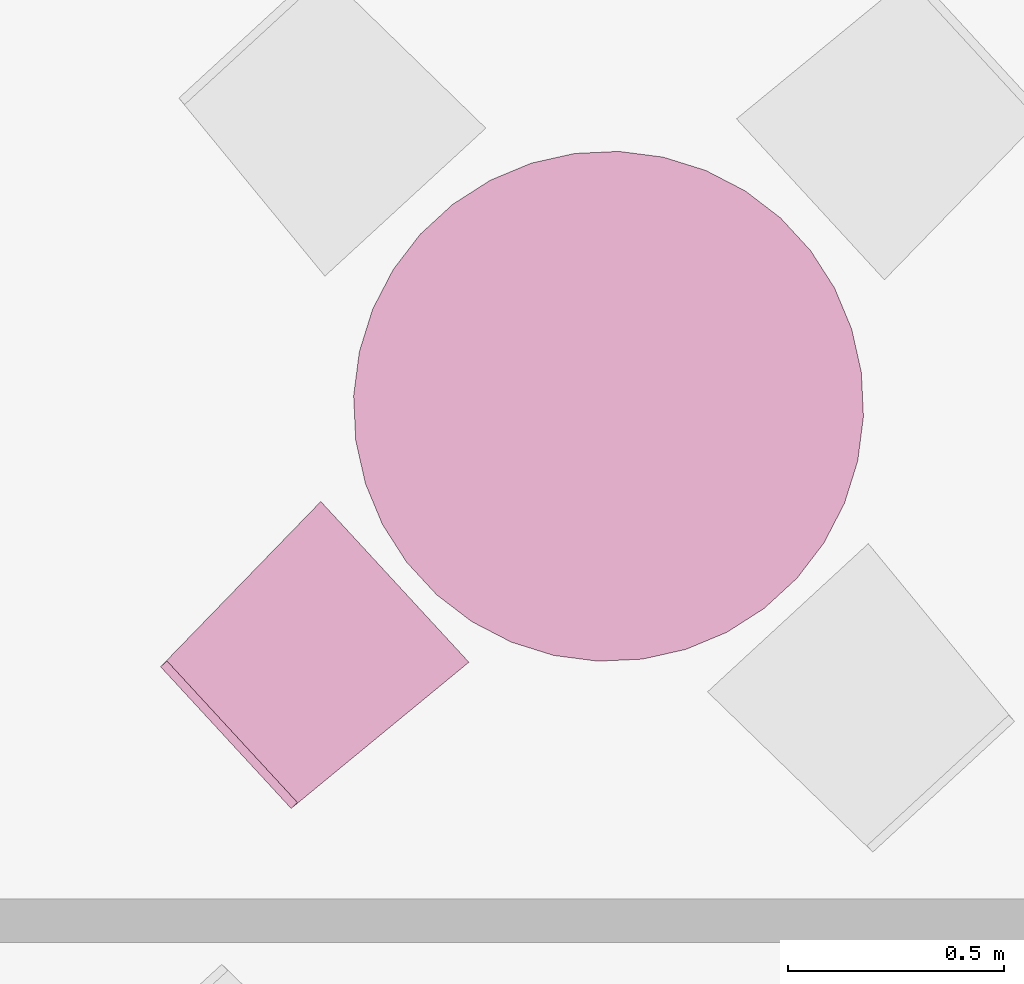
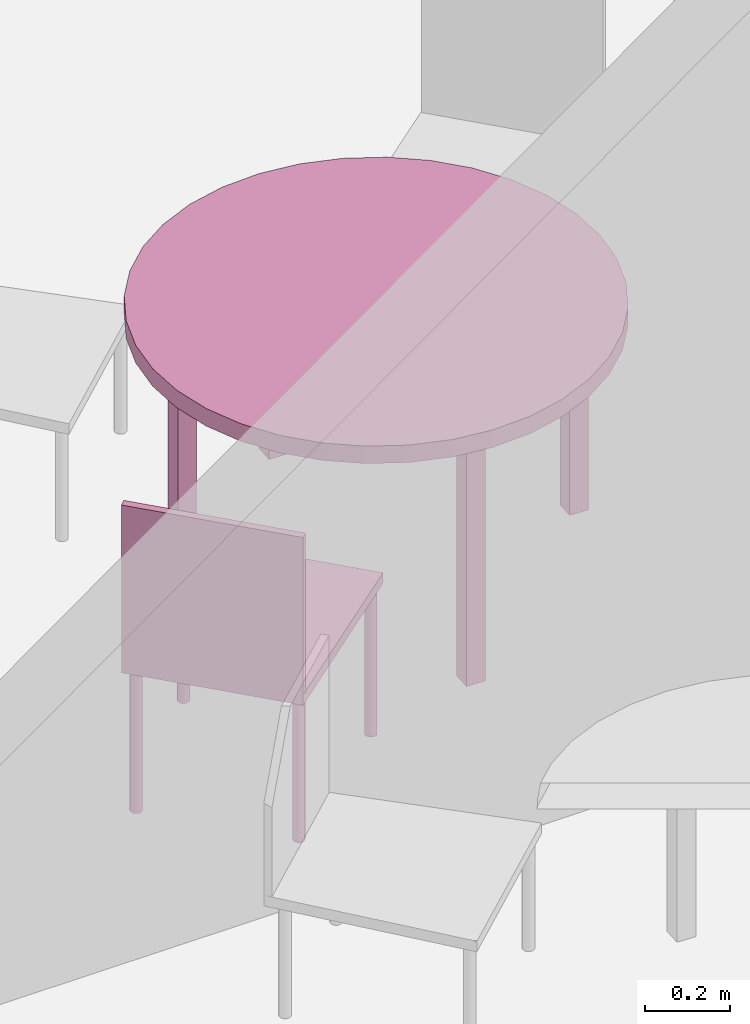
"""IFC4 building model written with IfcOpenShell, lengths in metres."""

import ifcopenshell
import ifcopenshell.guid

model = None  # the IFC model being written
_history = None  # IfcOwnerHistory: only IFC2X3 demands one
_inside = {}  # id of a spatial element -> (the spatial element, [elements in it])
_under = {}  # id of a project, library or spatial element -> (it, [spatial elements below it])
_declared = {}  # id of a project -> (the project, [libraries it declares])
_typed = {}  # id of a type object -> (the type object, [elements of that type])
_made_of = {}  # id of a material, layer set ... -> (it, [elements and type objects made of it])


def new_model(schema):
    """Start an empty IFC model of exactly this schema.

    Asked for "IFC4X3", IfcOpenShell would pick the latest addendum, in which some entities
    have other attributes; the version numbers below select the first issue.
    IFC2X3 requires an IfcOwnerHistory on every rooted entity: one is made here for all.
    """
    global model, _history
    if schema == "IFC4X3":
        model = ifcopenshell.file(schema_version=(4, 3, 0, 0))
    else:
        model = ifcopenshell.file(schema=schema)
    _inside.clear()
    _under.clear()
    _declared.clear()
    _typed.clear()
    _made_of.clear()
    _history = None
    if model.schema == "IFC2X3":
        org = make("IfcOrganization", Name="unknown")
        user = make(
            "IfcPersonAndOrganization",
            ThePerson=make("IfcPerson", FamilyName="unknown"),
            TheOrganization=org,
        )
        app = make(
            "IfcApplication",
            ApplicationDeveloper=org,
            Version="unknown",
            ApplicationFullName="unknown",
            ApplicationIdentifier="unknown",
        )
        _history = make(
            "IfcOwnerHistory",
            OwningUser=user,
            OwningApplication=app,
            ChangeAction="ADDED",
            CreationDate=0,
        )
    return model


def make(cls, **values):
    """One entity of the class cls with the attributes given. An attribute that is None is left unset."""
    return model.create_entity(
        cls, **{name: value for name, value in values.items() if value is not None}
    )


def entity(cls, *values):
    """Any entity or typed value of the class cls, its attributes in the order of the schema. None: left unset."""
    e = model.create_entity(cls)
    for i, value in enumerate(values):
        if value is not None:
            e[i] = value
    return e


def rooted(cls, **values):
    """An entity with a GlobalId (a new one), such as an element, a storey or a relation."""
    return make(cls, GlobalId=ifcopenshell.guid.new(), OwnerHistory=_history, **values)


def si_unit(unit_type, name, prefix=None):
    """IfcSIUnit, for example si_unit("LENGTHUNIT", "METRE", prefix="MILLI")."""
    return make("IfcSIUnit", UnitType=unit_type, Prefix=prefix, Name=name)


def converted_unit(unit_type, name, factor, base, dimensions=None, offset=None):
    """IfcConversionBasedUnit, such as the inch: factor (a typed value) times the base unit."""
    return make(
        "IfcConversionBasedUnit"
        if offset is None
        else "IfcConversionBasedUnitWithOffset",
        ConversionOffset=offset,
        Dimensions=None
        if dimensions is None
        else entity("IfcDimensionalExponents", *dimensions),
        UnitType=unit_type,
        Name=name,
        ConversionFactor=make(
            "IfcMeasureWithUnit", ValueComponent=factor, UnitComponent=base
        ),
    )


def derived_unit(unit_type, elements):
    """IfcDerivedUnit: a product of units, each with its exponent."""
    return make(
        "IfcDerivedUnit",
        Elements=[
            make("IfcDerivedUnitElement", Unit=unit, Exponent=power)
            for unit, power in elements
        ],
        UnitType=unit_type,
    )


def assignment(units):
    """IfcUnitAssignment: the units of a project."""
    return None if units is None else make("IfcUnitAssignment", Units=units)


def point(xyz):
    """IfcCartesianPoint."""
    return None if xyz is None else make("IfcCartesianPoint", Coordinates=xyz)


def direction(xyz):
    """IfcDirection."""
    return None if xyz is None else make("IfcDirection", DirectionRatios=xyz)


def frame(location, z_axis=None, x_axis=None):
    """IfcAxis2Placement3D, a coordinate frame: its origin and axes. An axis left out is left unset."""
    return make(
        "IfcAxis2Placement3D",
        Location=point(location),
        Axis=direction(z_axis),
        RefDirection=direction(x_axis),
    )


def origin():
    """The frame at (0, 0, 0) with its axes left unset."""
    return frame((0.0, 0.0, 0.0))


def place(relative_to, where):
    """IfcLocalPlacement: puts the frame where relative to a parent placement (None: the world)."""
    return make(
        "IfcLocalPlacement", PlacementRelTo=relative_to, RelativePlacement=where
    )


def context(
    kind, dimensions, precision=None, world=None, true_north=None, identifier=None
):
    """IfcGeometricRepresentationContext, for example the 3D "Model" context."""
    return make(
        "IfcGeometricRepresentationContext",
        ContextIdentifier=identifier,
        ContextType=kind,
        CoordinateSpaceDimension=dimensions,
        Precision=precision,
        WorldCoordinateSystem=world,
        TrueNorth=true_north,
    )


def subcontext(parent, identifier, kind, view, scale=None):
    """IfcGeometricRepresentationSubContext, for example "Body" below "Model"."""
    return make(
        "IfcGeometricRepresentationSubContext",
        ContextIdentifier=identifier,
        ContextType=kind,
        ParentContext=parent,
        TargetScale=scale,
        TargetView=view,
    )


def project(units=None, contexts=None):
    """IfcProject with its units and contexts."""
    return rooted(
        "IfcProject",
        Name="project",
        RepresentationContexts=contexts,
        UnitsInContext=assignment(units),
    )


def spatial(cls, under=None, at=None, **own):
    """A site, building, storey or space (cls), placed at a placement, below another one or the project."""
    s = rooted(cls, ObjectPlacement=at, **own)
    if under is not None:
        _under.setdefault(under.id(), (under, []))[1].append(s)
    return s


def faces_of(points, faces, orient=None, outer=None):
    """IfcFace entities. A face is a list of loops; a loop is a list of indices into points, from 0.

    orient and outer hold one flag for each loop. By default every Orientation is true, the
    first loop of a face is its IfcFaceOuterBound and the others are IfcFaceBound.
    """
    made = []
    for i, loops in enumerate(faces):
        bounds = []
        for j, loop in enumerate(loops):
            is_outer = j == 0 if outer is None else outer[i][j]
            bounds.append(
                make(
                    "IfcFaceOuterBound" if is_outer else "IfcFaceBound",
                    Bound=make("IfcPolyLoop", Polygon=[points[k] for k in loop]),
                    Orientation=True if orient is None else orient[i][j],
                )
            )
        made.append(make("IfcFace", Bounds=bounds))
    return made


def faceted_brep(points, faces, orient=None, outer=None, voids=None):
    """IfcFacetedBrep: a solid bounded by flat faces; with voids (closed shells), ...WithVoids."""
    shared = [point(p) for p in points]
    hull = make("IfcClosedShell", CfsFaces=faces_of(shared, faces, orient, outer))
    if voids is None:
        return make("IfcFacetedBrep", Outer=hull)
    return make(
        "IfcFacetedBrepWithVoids",
        Outer=hull,
        Voids=[
            make(cls, CfsFaces=faces_of(shared, fs, o, b)) for cls, fs, o, b in voids
        ],
    )


def shape(context_of_items, identifier, shape_type, items):
    """IfcShapeRepresentation: the items that make up one representation, for example the "Body"."""
    return make(
        "IfcShapeRepresentation",
        ContextOfItems=context_of_items,
        RepresentationIdentifier=identifier,
        RepresentationType=shape_type,
        Items=items,
    )


def made_of(thing, what):
    """Note that an element or type object is made of a material, layer set ...; save() writes the relation."""
    if what is not None:
        _made_of.setdefault(what.id(), (what, []))[1].append(thing)
    return thing


def element(
    cls,
    number,
    at=None,
    inside=None,
    cuts=None,
    type_object=None,
    material=None,
    context=None,
    identifier="Body",
    shape_type=None,
    held_by="IfcProductDefinitionShape",
    body=None,
    shapes=None,
    **own,
):
    """One element of the class cls, such as IfcWall. Its Tag is "e" and its number.

    at: its placement. inside: the storey or other place that contains it. cuts: it is an
    opening in that element (IfcRelVoidsElement). A single representation is given by context,
    identifier, shape_type and body (its items); several are given by shapes. held_by: the class
    of the entity that holds the representations. save() writes the other relations.
    """
    e = rooted(cls, Tag="e%d" % number, ObjectPlacement=at, **own)
    if body is not None:
        shapes = [shape(context, identifier, shape_type, body)]
    if shapes is not None:
        e.Representation = make(held_by, Representations=shapes)
    if inside is not None:
        _inside.setdefault(inside.id(), (inside, []))[1].append(e)
    if cuts is not None:
        rooted(
            "IfcRelVoidsElement", RelatingBuildingElement=cuts, RelatedOpeningElement=e
        )
    if type_object is not None:
        _typed.setdefault(type_object.id(), (type_object, []))[1].append(e)
    return made_of(e, material)


def aggregate(whole, parts):
    """IfcRelAggregates: a whole, such as a stair, and the parts it consists of."""
    return rooted("IfcRelAggregates", RelatingObject=whole, RelatedObjects=parts)


def save(model, path):
    """Write the relations noted so far, then the file.

    IfcRelAggregates (storeys below a building ...), IfcRelContainedInSpatialStructure (elements
    in a storey), IfcRelDefinesByType, IfcRelAssociatesMaterial and IfcRelDeclares: one each for
    every whole, place, type object, material and project.
    """
    for whole, parts in _under.values():
        aggregate(whole, parts)
    for where, things in _inside.values():
        rooted(
            "IfcRelContainedInSpatialStructure",
            RelatedElements=things,
            RelatingStructure=where,
        )
    for kind, things in _typed.values():
        rooted("IfcRelDefinesByType", RelatedObjects=things, RelatingType=kind)
    for what, things in _made_of.values():
        rooted("IfcRelAssociatesMaterial", RelatedObjects=things, RelatingMaterial=what)
    for by, libraries in _declared.values():
        rooted("IfcRelDeclares", RelatingContext=by, RelatedDefinitions=libraries)
    model.write(path)


model = new_model("IFC4")

# Units and contexts
model_context = context("Model", 3, precision=1e-05, world=origin())
body_context = subcontext(model_context, "Body", "Model", "MODEL_VIEW")
ifc_project = project(units=[si_unit("LENGTHUNIT", "METRE"), si_unit("AREAUNIT", "SQUARE_METRE"), si_unit("VOLUMEUNIT", "CUBIC_METRE"), si_unit("MASSUNIT", "GRAM", prefix="KILO"), converted_unit("PLANEANGLEUNIT", "DEGREE", entity("IfcPlaneAngleMeasure", 0.0174532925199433), si_unit("PLANEANGLEUNIT", "RADIAN"), dimensions=[0, 0, 0, 0, 0, 0, 0]), derived_unit("THERMALTRANSMITTANCEUNIT", [(si_unit("POWERUNIT", "WATT"), 1), (si_unit("THERMODYNAMICTEMPERATUREUNIT", "KELVIN"), -1), (si_unit("LENGTHUNIT", "METRE"), -2)]), derived_unit("VOLUMETRICFLOWRATEUNIT", [(si_unit("LENGTHUNIT", "METRE"), 3), (converted_unit("TIMEUNIT", "hour", entity("IfcTimeMeasure", 3600.0), si_unit("TIMEUNIT", "SECOND"), dimensions=[0, 0, 1, 0, 0, 0, 0]), -1), (si_unit("LENGTHUNIT", "METRE"), -1)])], contexts=[model_context])

# Building, storeys
building_placement = place(None, origin())
building = spatial("IfcBuilding", under=ifc_project, at=building_placement, Name="HABITATGE PLURIFAMILIAR", CompositionType="ELEMENT")
storey_1_placement = place(building_placement, frame((0.0, 0.0, 12.27)))
storey_1 = spatial("IfcBuildingStorey", under=building, at=storey_1_placement, Name="PLANTA TERCERA", CompositionType="ELEMENT", Elevation=12.27)
storey_2_placement = place(storey_1_placement, frame((0.0, 0.0, 9.26)))
storey_2 = spatial("IfcBuildingStorey", under=storey_1, at=storey_2_placement, Name="NOU", CompositionType="PARTIAL")

# Furniture
furniture_1_placement = place(storey_2_placement, frame((423.998777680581, 23.3523776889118, -9.3599999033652)))
element("IfcFurniture", 1, at=furniture_1_placement, inside=storey_2, Name="Taula D120_P3", context=body_context, shape_type="Brep", body=[
    faceted_brep([(0.566234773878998, 0.0, 0.7), (0.669181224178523, 0.00472505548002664, 0.7), (0.769743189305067, 0.0272547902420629, 0.7), (0.864865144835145, 0.066904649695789, 0.7), (0.95165685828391, 0.122469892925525, 0.7), (1.02748120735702, 0.192262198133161, 0.7), (1.09003430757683, 0.274160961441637, 0.7), (1.13741551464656, 0.365677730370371, 0.7), (1.16818517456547, 0.46403181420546, 0.7), (1.18140836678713, 0.566234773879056, 0.7), (1.17668331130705, 0.669181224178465, 0.7), (1.15415357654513, 0.769743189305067, 0.7), (1.1145037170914, 0.864865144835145, 0.7), (1.05893847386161, 0.95165685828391, 0.7), (0.98914616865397, 1.02748120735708, 0.7), (0.907247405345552, 1.09003430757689, 0.7), (0.815730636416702, 1.13741551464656, 0.7), (0.717376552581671, 1.16818517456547, 0.7), (0.615173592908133, 1.18140836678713, 0.7), (0.512227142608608, 1.1766833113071, 0.7), (0.411665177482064, 1.15415357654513, 0.7), (0.316543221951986, 1.1145037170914, 0.7), (0.229751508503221, 1.05893847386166, 0.7), (0.15392715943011, 0.989146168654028, 0.7), (0.0913740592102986, 0.907247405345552, 0.7), (0.0439928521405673, 0.81573063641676, 0.7), (0.0132231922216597, 0.717376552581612, 0.7), (0.0, 0.615173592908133, 0.7), (0.00472505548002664, 0.512227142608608, 0.7), (0.0272547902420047, 0.411665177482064, 0.7), (0.0669046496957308, 0.316543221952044, 0.7), (0.122469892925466, 0.229751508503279, 0.7), (0.192262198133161, 0.15392715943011, 0.7), (0.274160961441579, 0.0913740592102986, 0.7), (0.365677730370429, 0.0439928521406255, 0.7), (0.46403181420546, 0.0132231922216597, 0.7), (0.566234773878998, 0.0, 0.75), (0.46403181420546, 0.0132231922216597, 0.75), (0.365677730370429, 0.0439928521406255, 0.75), (0.274160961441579, 0.0913740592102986, 0.75), (0.192262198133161, 0.15392715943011, 0.75), (0.122469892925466, 0.229751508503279, 0.75), (0.0669046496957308, 0.316543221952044, 0.75), (0.0272547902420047, 0.411665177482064, 0.75), (0.00472505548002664, 0.512227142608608, 0.75), (0.0, 0.615173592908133, 0.75), (0.0132231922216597, 0.717376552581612, 0.75), (0.0439928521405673, 0.81573063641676, 0.75), (0.0913740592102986, 0.907247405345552, 0.75), (0.15392715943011, 0.989146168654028, 0.75), (0.229751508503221, 1.05893847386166, 0.75), (0.316543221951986, 1.1145037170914, 0.75), (0.411665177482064, 1.15415357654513, 0.75), (0.512227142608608, 1.1766833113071, 0.75), (0.615173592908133, 1.18140836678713, 0.75), (0.717376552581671, 1.16818517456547, 0.75), (0.815730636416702, 1.13741551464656, 0.75), (0.907247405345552, 1.09003430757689, 0.75), (0.98914616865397, 1.02748120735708, 0.75), (1.05893847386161, 0.95165685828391, 0.75), (1.1145037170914, 0.864865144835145, 0.75), (1.15415357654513, 0.769743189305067, 0.75), (1.17668331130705, 0.669181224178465, 0.75), (1.18140836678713, 0.566234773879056, 0.75), (1.16818517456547, 0.46403181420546, 0.75), (1.13741551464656, 0.365677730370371, 0.75), (1.09003430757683, 0.274160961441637, 0.75), (1.02748120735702, 0.192262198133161, 0.75), (0.95165685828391, 0.122469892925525, 0.75), (0.864865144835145, 0.066904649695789, 0.75), (0.769743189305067, 0.0272547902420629, 0.75), (0.669181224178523, 0.00472505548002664, 0.75)], [[[0, 1, 2, 3, 4, 5, 6, 7, 8, 9, 10, 11, 12, 13, 14, 15, 16, 17, 18, 19, 20, 21, 22, 23, 24, 25, 26, 27, 28, 29, 30, 31, 32, 33, 34, 35]], [[36, 37, 38, 39, 40, 41, 42, 43, 44, 45, 46, 47, 48, 49, 50, 51, 52, 53, 54, 55, 56, 57, 58, 59, 60, 61, 62, 63, 64, 65, 66, 67, 68, 69, 70, 71]], [[1, 0, 36, 71]], [[2, 1, 71, 70]], [[3, 2, 70, 69]], [[4, 3, 69, 68]], [[5, 4, 68, 67]], [[6, 5, 67, 66]], [[7, 6, 66, 65]], [[8, 7, 65, 64]], [[9, 8, 64, 63]], [[10, 9, 63, 62]], [[11, 10, 62, 61]], [[12, 11, 61, 60]], [[13, 12, 60, 59]], [[14, 13, 59, 58]], [[15, 14, 58, 57]], [[16, 15, 57, 56]], [[17, 16, 56, 55]], [[18, 17, 55, 54]], [[19, 18, 54, 53]], [[20, 19, 53, 52]], [[21, 20, 52, 51]], [[22, 21, 51, 50]], [[23, 22, 50, 49]], [[24, 23, 49, 48]], [[25, 24, 48, 47]], [[26, 25, 47, 46]], [[27, 26, 46, 45]], [[28, 27, 45, 44]], [[29, 28, 44, 43]], [[30, 29, 43, 42]], [[31, 30, 42, 41]], [[32, 31, 41, 40]], [[33, 32, 40, 39]], [[34, 33, 39, 38]], [[35, 34, 38, 37]], [[0, 35, 37, 36]]], orient=[[False], [False], [False], [False], [False], [False], [False], [False], [False], [False], [False], [False], [False], [False], [False], [False], [False], [False], [False], [False], [False], [False], [False], [False], [False], [False], [False], [False], [False], [False], [False], [False], [False], [False], [False], [False], [False], [False]]),
    faceted_brep([(1.13402659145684, 0.582336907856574, 0.0), (1.08406943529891, 0.584406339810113, 0.0), (1.08200000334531, 0.534449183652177, 0.0), (1.13195715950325, 0.532379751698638, 0.0), (1.08406943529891, 0.584406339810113, 0.7), (1.13402659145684, 0.582336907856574, 0.7), (1.13195715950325, 0.532379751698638, 0.7), (1.08200000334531, 0.534449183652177, 0.7)], [[[0, 1, 2, 3]], [[4, 5, 6, 7]], [[1, 0, 5, 4]], [[2, 1, 4, 7]], [[3, 2, 7, 6]], [[0, 3, 6, 5]]], orient=[[False], [False], [False], [False], [False], [False]]),
    faceted_brep([(0.638184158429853, 1.13286481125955, 0.0), (0.588227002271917, 1.13493424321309, 0.0), (0.586157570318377, 1.08497708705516, 0.0), (0.636114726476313, 1.08290765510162, 0.0), (0.588227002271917, 1.13493424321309, 0.7), (0.638184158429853, 1.13286481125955, 0.7), (0.636114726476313, 1.08290765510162, 0.7), (0.586157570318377, 1.08497708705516, 0.7)], [[[0, 1, 2, 3]], [[4, 5, 6, 7]], [[1, 0, 5, 4]], [[2, 1, 4, 7]], [[3, 2, 7, 6]], [[0, 3, 6, 5]]], orient=[[False], [False], [False], [False], [False], [False]]),
    faceted_brep([(0.574688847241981, 0.0976411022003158, 0.0), (0.524731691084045, 0.0997105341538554, 0.0), (0.522662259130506, 0.0497533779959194, 0.0), (0.572619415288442, 0.0476839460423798, 0.0), (0.524731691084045, 0.0997105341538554, 0.7), (0.574688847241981, 0.0976411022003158, 0.7), (0.572619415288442, 0.0476839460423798, 0.7), (0.522662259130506, 0.0497533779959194, 0.7)], [[[0, 1, 2, 3]], [[4, 5, 6, 7]], [[1, 0, 5, 4]], [[2, 1, 4, 7]], [[3, 2, 7, 6]], [[0, 3, 6, 5]]], orient=[[False], [False], [False], [False], [False], [False]]),
    faceted_brep([(0.098150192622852, 0.625247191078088, 0.0), (0.0481930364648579, 0.627316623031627, 0.0), (0.0461236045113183, 0.577359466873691, 0.0), (0.0960807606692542, 0.575290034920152, 0.0), (0.0481930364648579, 0.627316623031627, 0.7), (0.098150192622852, 0.625247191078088, 0.7), (0.0960807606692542, 0.575290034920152, 0.7), (0.0461236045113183, 0.577359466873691, 0.7)], [[[0, 1, 2, 3]], [[4, 5, 6, 7]], [[1, 0, 5, 4]], [[2, 1, 4, 7]], [[3, 2, 7, 6]], [[0, 3, 6, 5]]], orient=[[False], [False], [False], [False], [False], [False]]),
])
furniture_2_placement = place(storey_2_placement, frame((423.551324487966, 23.0110897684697, -9.36074913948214)))
element("IfcFurniture", 2, at=furniture_2_placement, inside=storey_2, Name="Cadira confident_P3", context=body_context, shape_type="Brep", body=[
    faceted_brep([(0.359177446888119, 0.687513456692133, 0.0), (0.357422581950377, 0.685589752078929, 0.0), (0.356028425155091, 0.683390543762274, 0.0), (0.355037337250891, 0.680982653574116, 0.0), (0.354479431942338, 0.678439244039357, 0.0), (0.354371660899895, 0.675837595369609, 0.0), (0.354717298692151, 0.673256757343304, 0.0), (0.355505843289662, 0.67077514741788, 0.0), (0.35671333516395, 0.668468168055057, 0.0), (0.358303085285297, 0.666405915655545, 0.0), (0.3602267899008, 0.664651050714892, 0.0), (0.362425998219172, 0.663256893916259, 0.0), (0.364833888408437, 0.662265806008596, 0.0), (0.367377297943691, 0.661707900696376, 0.0), (0.369978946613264, 0.661600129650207, 0.0), (0.372559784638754, 0.661945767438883, 0.0), (0.375041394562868, 0.662734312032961, 0.0), (0.377348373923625, 0.663941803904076, 0.0), (0.379410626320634, 0.665531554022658, 0.0), (0.381165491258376, 0.66745525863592, 0.0), (0.382559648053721, 0.669654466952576, 0.0), (0.383550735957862, 0.672062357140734, 0.0), (0.384108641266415, 0.674605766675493, 0.0), (0.3842164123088, 0.677207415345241, 0.0), (0.383870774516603, 0.679788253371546, 0.0), (0.383082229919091, 0.68226986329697, 0.0), (0.381874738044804, 0.684576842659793, 0.0), (0.380284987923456, 0.686639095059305, 0.0), (0.378361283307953, 0.688393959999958, 0.0), (0.376162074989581, 0.689788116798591, 0.0), (0.373754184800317, 0.690779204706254, 0.0), (0.371210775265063, 0.691337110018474, 0.0), (0.368609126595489, 0.691444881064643, 0.0), (0.366028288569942, 0.691099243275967, 0.0), (0.363546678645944, 0.690310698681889, 0.0), (0.361239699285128, 0.689103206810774, 0.0), (0.359177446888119, 0.687513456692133, 0.448281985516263), (0.361239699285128, 0.689103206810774, 0.448281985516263), (0.363546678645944, 0.690310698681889, 0.448281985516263), (0.366028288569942, 0.691099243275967, 0.448281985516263), (0.368609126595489, 0.691444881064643, 0.448281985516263), (0.371210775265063, 0.691337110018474, 0.448281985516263), (0.373754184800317, 0.690779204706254, 0.448281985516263), (0.376162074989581, 0.689788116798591, 0.448281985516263), (0.378361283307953, 0.688393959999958, 0.448281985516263), (0.380284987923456, 0.686639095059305, 0.448281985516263), (0.381874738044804, 0.684576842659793, 0.448281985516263), (0.383082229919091, 0.68226986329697, 0.448281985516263), (0.383870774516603, 0.679788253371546, 0.448281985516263), (0.3842164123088, 0.677207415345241, 0.448281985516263), (0.384108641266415, 0.674605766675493, 0.448281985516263), (0.383550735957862, 0.672062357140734, 0.448281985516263), (0.382559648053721, 0.669654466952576, 0.448281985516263), (0.381165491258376, 0.66745525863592, 0.448281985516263), (0.379410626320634, 0.665531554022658, 0.448281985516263), (0.377348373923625, 0.663941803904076, 0.448281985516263), (0.375041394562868, 0.662734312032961, 0.448281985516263), (0.372559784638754, 0.661945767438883, 0.448281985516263), (0.369978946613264, 0.661600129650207, 0.448281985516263), (0.367377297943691, 0.661707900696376, 0.448281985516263), (0.364833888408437, 0.662265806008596, 0.448281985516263), (0.362425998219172, 0.663256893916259, 0.448281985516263), (0.3602267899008, 0.664651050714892, 0.448281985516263), (0.358303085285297, 0.666405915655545, 0.448281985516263), (0.35671333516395, 0.668468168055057, 0.448281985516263), (0.355505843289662, 0.67077514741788, 0.448281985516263), (0.354717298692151, 0.673256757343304, 0.448281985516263), (0.354371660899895, 0.675837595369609, 0.448281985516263), (0.354479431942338, 0.678439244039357, 0.448281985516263), (0.355037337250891, 0.680982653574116, 0.448281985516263), (0.356028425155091, 0.683390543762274, 0.448281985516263), (0.357422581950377, 0.685589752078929, 0.448281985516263)], [[[0, 1, 2, 3, 4, 5, 6, 7, 8, 9, 10, 11, 12, 13, 14, 15, 16, 17, 18, 19, 20, 21, 22, 23, 24, 25, 26, 27, 28, 29, 30, 31, 32, 33, 34, 35]], [[36, 37, 38, 39, 40, 41, 42, 43, 44, 45, 46, 47, 48, 49, 50, 51, 52, 53, 54, 55, 56, 57, 58, 59, 60, 61, 62, 63, 64, 65, 66, 67, 68, 69, 70, 71]], [[1, 0, 36, 71]], [[2, 1, 71, 70]], [[3, 2, 70, 69]], [[4, 3, 69, 68]], [[5, 4, 68, 67]], [[6, 5, 67, 66]], [[7, 6, 66, 65]], [[8, 7, 65, 64]], [[9, 8, 64, 63]], [[10, 9, 63, 62]], [[11, 10, 62, 61]], [[12, 11, 61, 60]], [[13, 12, 60, 59]], [[14, 13, 59, 58]], [[15, 14, 58, 57]], [[16, 15, 57, 56]], [[17, 16, 56, 55]], [[18, 17, 55, 54]], [[19, 18, 54, 53]], [[20, 19, 53, 52]], [[21, 20, 52, 51]], [[22, 21, 51, 50]], [[23, 22, 50, 49]], [[24, 23, 49, 48]], [[25, 24, 48, 47]], [[26, 25, 47, 46]], [[27, 26, 46, 45]], [[28, 27, 45, 44]], [[29, 28, 44, 43]], [[30, 29, 43, 42]], [[31, 30, 42, 41]], [[32, 31, 41, 40]], [[33, 32, 40, 39]], [[34, 33, 39, 38]], [[35, 34, 38, 37]], [[0, 35, 37, 36]]], orient=[[False], [False], [False], [False], [False], [False], [False], [False], [False], [False], [False], [False], [False], [False], [False], [False], [False], [False], [False], [False], [False], [False], [False], [False], [False], [False], [False], [False], [False], [False], [False], [False], [False], [False], [False], [False], [False], [False]]),
    faceted_brep([(0.0378673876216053, 0.353830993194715, 0.0), (0.0361125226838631, 0.351907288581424, 0.0), (0.0347183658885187, 0.349708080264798, 0.0), (0.033727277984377, 0.347300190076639, 0.0), (0.033169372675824, 0.34475678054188, 0.0), (0.0330616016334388, 0.342155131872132, 0.0), (0.0334072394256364, 0.339574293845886, 0.0), (0.0341957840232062, 0.337092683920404, 0.0), (0.0354032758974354, 0.33478570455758, 0.0), (0.036993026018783, 0.332723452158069, 0.0), (0.0389167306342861, 0.330968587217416, 0.0), (0.0411159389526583, 0.329574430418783, 0.0), (0.0435238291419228, 0.32858334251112, 0.0), (0.0460672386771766, 0.328025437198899, 0.0), (0.0486688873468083, 0.327917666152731, 0.0), (0.0512497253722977, 0.328263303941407, 0.0), (0.0537313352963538, 0.329051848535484, 0.0), (0.0560383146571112, 0.33025934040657, 0.0), (0.0581005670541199, 0.33184909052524, 0.0), (0.0598554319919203, 0.333772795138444, 0.0), (0.0612495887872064, 0.335972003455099, 0.0), (0.0622406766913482, 0.338379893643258, 0.0), (0.0627985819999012, 0.340923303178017, 0.0), (0.0629063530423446, 0.343524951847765, 0.0), (0.0625607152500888, 0.346105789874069, 0.0), (0.0617721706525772, 0.348587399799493, 0.0), (0.0605646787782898, 0.350894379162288, 0.0), (0.0589749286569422, 0.352956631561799, 0.0), (0.0570512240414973, 0.354711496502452, 0.0), (0.0548520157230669, 0.356105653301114, 0.0), (0.0524441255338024, 0.357096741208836, 0.0), (0.0499007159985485, 0.357654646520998, 0.0), (0.0472990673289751, 0.357762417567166, 0.0), (0.0447182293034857, 0.35741677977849, 0.0), (0.0422366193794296, 0.356628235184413, 0.0), (0.039929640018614, 0.355420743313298, 0.0), (0.0378673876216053, 0.353830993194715, 0.448281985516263), (0.039929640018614, 0.355420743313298, 0.448281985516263), (0.0422366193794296, 0.356628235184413, 0.448281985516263), (0.0447182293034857, 0.35741677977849, 0.448281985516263), (0.0472990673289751, 0.357762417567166, 0.448281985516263), (0.0499007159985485, 0.357654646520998, 0.448281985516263), (0.0524441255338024, 0.357096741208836, 0.448281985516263), (0.0548520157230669, 0.356105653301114, 0.448281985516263), (0.0570512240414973, 0.354711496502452, 0.448281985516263), (0.0589749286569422, 0.352956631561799, 0.448281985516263), (0.0605646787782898, 0.350894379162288, 0.448281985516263), (0.0617721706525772, 0.348587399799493, 0.448281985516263), (0.0625607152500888, 0.346105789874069, 0.448281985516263), (0.0629063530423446, 0.343524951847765, 0.448281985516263), (0.0627985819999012, 0.340923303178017, 0.448281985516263), (0.0622406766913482, 0.338379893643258, 0.448281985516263), (0.0612495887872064, 0.335972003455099, 0.448281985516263), (0.0598554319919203, 0.333772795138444, 0.448281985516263), (0.0581005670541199, 0.33184909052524, 0.448281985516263), (0.0560383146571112, 0.33025934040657, 0.448281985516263), (0.0537313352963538, 0.329051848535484, 0.448281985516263), (0.0512497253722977, 0.328263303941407, 0.448281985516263), (0.0486688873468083, 0.327917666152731, 0.448281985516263), (0.0460672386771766, 0.328025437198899, 0.448281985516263), (0.0435238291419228, 0.32858334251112, 0.448281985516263), (0.0411159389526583, 0.329574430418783, 0.448281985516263), (0.0389167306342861, 0.330968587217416, 0.448281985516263), (0.036993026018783, 0.332723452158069, 0.448281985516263), (0.0354032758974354, 0.33478570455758, 0.448281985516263), (0.0341957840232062, 0.337092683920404, 0.448281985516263), (0.0334072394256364, 0.339574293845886, 0.448281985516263), (0.0330616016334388, 0.342155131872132, 0.448281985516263), (0.033169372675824, 0.34475678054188, 0.448281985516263), (0.033727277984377, 0.347300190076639, 0.448281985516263), (0.0347183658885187, 0.349708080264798, 0.448281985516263), (0.0361125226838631, 0.351907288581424, 0.448281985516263)], [[[0, 1, 2, 3, 4, 5, 6, 7, 8, 9, 10, 11, 12, 13, 14, 15, 16, 17, 18, 19, 20, 21, 22, 23, 24, 25, 26, 27, 28, 29, 30, 31, 32, 33, 34, 35]], [[36, 37, 38, 39, 40, 41, 42, 43, 44, 45, 46, 47, 48, 49, 50, 51, 52, 53, 54, 55, 56, 57, 58, 59, 60, 61, 62, 63, 64, 65, 66, 67, 68, 69, 70, 71]], [[1, 0, 36, 71]], [[2, 1, 71, 70]], [[3, 2, 70, 69]], [[4, 3, 69, 68]], [[5, 4, 68, 67]], [[6, 5, 67, 66]], [[7, 6, 66, 65]], [[8, 7, 65, 64]], [[9, 8, 64, 63]], [[10, 9, 63, 62]], [[11, 10, 62, 61]], [[12, 11, 61, 60]], [[13, 12, 60, 59]], [[14, 13, 59, 58]], [[15, 14, 58, 57]], [[16, 15, 57, 56]], [[17, 16, 56, 55]], [[18, 17, 55, 54]], [[19, 18, 54, 53]], [[20, 19, 53, 52]], [[21, 20, 52, 51]], [[22, 21, 51, 50]], [[23, 22, 50, 49]], [[24, 23, 49, 48]], [[25, 24, 48, 47]], [[26, 25, 47, 46]], [[27, 26, 46, 45]], [[28, 27, 45, 44]], [[29, 28, 44, 43]], [[30, 29, 43, 42]], [[31, 30, 42, 41]], [[32, 31, 41, 40]], [[33, 32, 40, 39]], [[34, 33, 39, 38]], [[35, 34, 38, 37]], [[0, 35, 37, 36]]], orient=[[False], [False], [False], [False], [False], [False], [False], [False], [False], [False], [False], [False], [False], [False], [False], [False], [False], [False], [False], [False], [False], [False], [False], [False], [False], [False], [False], [False], [False], [False], [False], [False], [False], [False], [False], [False], [False], [False]]),
    faceted_brep([(0.670904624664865, 0.349244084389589, 0.0), (0.669149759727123, 0.347320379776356, 0.0), (0.667755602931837, 0.34512117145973, 0.0), (0.666764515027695, 0.342713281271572, 0.0), (0.666206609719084, 0.340169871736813, 0.0), (0.666098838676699, 0.337568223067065, 0.0), (0.666444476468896, 0.33498738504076, 0.0), (0.667233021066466, 0.332505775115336, 0.0), (0.668440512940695, 0.330198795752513, 0.0), (0.670030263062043, 0.328136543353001, 0.0), (0.671953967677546, 0.326381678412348, 0.0), (0.674153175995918, 0.324987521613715, 0.0), (0.676561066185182, 0.323996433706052, 0.0), (0.679104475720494, 0.323438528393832, 0.0), (0.681706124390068, 0.323330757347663, 0.0), (0.684286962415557, 0.323676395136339, 0.0), (0.686768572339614, 0.324464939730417, 0.0), (0.689075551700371, 0.325672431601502, 0.0), (0.691137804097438, 0.327262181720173, 0.0), (0.69289266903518, 0.329185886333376, 0.0), (0.694286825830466, 0.331385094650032, 0.0), (0.695277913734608, 0.33379298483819, 0.0), (0.695835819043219, 0.336336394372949, 0.0), (0.695943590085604, 0.338938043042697, 0.0), (0.695597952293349, 0.341518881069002, 0.0), (0.694809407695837, 0.344000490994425, 0.0), (0.693601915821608, 0.34630747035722, 0.0), (0.692012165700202, 0.348369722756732, 0.0), (0.690088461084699, 0.350124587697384, 0.0), (0.687889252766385, 0.351518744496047, 0.0), (0.685481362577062, 0.35250983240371, 0.0), (0.682937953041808, 0.35306773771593, 0.0), (0.680336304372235, 0.353175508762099, 0.0), (0.677755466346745, 0.352829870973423, 0.0), (0.675273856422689, 0.352041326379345, 0.0), (0.672966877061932, 0.35083383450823, 0.0), (0.670904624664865, 0.349244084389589, 0.448281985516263), (0.672966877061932, 0.35083383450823, 0.448281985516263), (0.675273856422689, 0.352041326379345, 0.448281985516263), (0.677755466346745, 0.352829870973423, 0.448281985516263), (0.680336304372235, 0.353175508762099, 0.448281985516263), (0.682937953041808, 0.35306773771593, 0.448281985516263), (0.685481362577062, 0.35250983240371, 0.448281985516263), (0.687889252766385, 0.351518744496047, 0.448281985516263), (0.690088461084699, 0.350124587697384, 0.448281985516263), (0.692012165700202, 0.348369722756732, 0.448281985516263), (0.693601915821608, 0.34630747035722, 0.448281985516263), (0.694809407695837, 0.344000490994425, 0.448281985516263), (0.695597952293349, 0.341518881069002, 0.448281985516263), (0.695943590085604, 0.338938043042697, 0.448281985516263), (0.695835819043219, 0.336336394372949, 0.448281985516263), (0.695277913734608, 0.33379298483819, 0.448281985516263), (0.694286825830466, 0.331385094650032, 0.448281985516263), (0.69289266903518, 0.329185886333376, 0.448281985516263), (0.691137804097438, 0.327262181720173, 0.448281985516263), (0.689075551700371, 0.325672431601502, 0.448281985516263), (0.686768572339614, 0.324464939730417, 0.448281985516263), (0.684286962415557, 0.323676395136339, 0.448281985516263), (0.681706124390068, 0.323330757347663, 0.448281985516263), (0.679104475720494, 0.323438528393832, 0.448281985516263), (0.676561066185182, 0.323996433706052, 0.448281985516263), (0.674153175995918, 0.324987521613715, 0.448281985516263), (0.671953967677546, 0.326381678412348, 0.448281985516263), (0.670030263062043, 0.328136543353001, 0.448281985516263), (0.668440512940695, 0.330198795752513, 0.448281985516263), (0.667233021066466, 0.332505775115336, 0.448281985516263), (0.666444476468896, 0.33498738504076, 0.448281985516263), (0.666098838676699, 0.337568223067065, 0.448281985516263), (0.666206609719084, 0.340169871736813, 0.448281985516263), (0.666764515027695, 0.342713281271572, 0.448281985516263), (0.667755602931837, 0.34512117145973, 0.448281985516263), (0.669149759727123, 0.347320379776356, 0.448281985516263)], [[[0, 1, 2, 3, 4, 5, 6, 7, 8, 9, 10, 11, 12, 13, 14, 15, 16, 17, 18, 19, 20, 21, 22, 23, 24, 25, 26, 27, 28, 29, 30, 31, 32, 33, 34, 35]], [[36, 37, 38, 39, 40, 41, 42, 43, 44, 45, 46, 47, 48, 49, 50, 51, 52, 53, 54, 55, 56, 57, 58, 59, 60, 61, 62, 63, 64, 65, 66, 67, 68, 69, 70, 71]], [[1, 0, 36, 71]], [[2, 1, 71, 70]], [[3, 2, 70, 69]], [[4, 3, 69, 68]], [[5, 4, 68, 67]], [[6, 5, 67, 66]], [[7, 6, 66, 65]], [[8, 7, 65, 64]], [[9, 8, 64, 63]], [[10, 9, 63, 62]], [[11, 10, 62, 61]], [[12, 11, 61, 60]], [[13, 12, 60, 59]], [[14, 13, 59, 58]], [[15, 14, 58, 57]], [[16, 15, 57, 56]], [[17, 16, 56, 55]], [[18, 17, 55, 54]], [[19, 18, 54, 53]], [[20, 19, 53, 52]], [[21, 20, 52, 51]], [[22, 21, 51, 50]], [[23, 22, 50, 49]], [[24, 23, 49, 48]], [[25, 24, 48, 47]], [[26, 25, 47, 46]], [[27, 26, 46, 45]], [[28, 27, 45, 44]], [[29, 28, 44, 43]], [[30, 29, 43, 42]], [[31, 30, 42, 41]], [[32, 31, 41, 40]], [[33, 32, 40, 39]], [[34, 33, 39, 38]], [[35, 34, 38, 37]], [[0, 35, 37, 36]]], orient=[[False], [False], [False], [False], [False], [False], [False], [False], [False], [False], [False], [False], [False], [False], [False], [False], [False], [False], [False], [False], [False], [False], [False], [False], [False], [False], [False], [False], [False], [False], [False], [False], [False], [False], [False], [False], [False], [False]]),
    faceted_brep([(0.308934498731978, 0.0596837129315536, 0.0), (0.307179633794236, 0.0577600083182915, 0.0), (0.305785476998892, 0.0555608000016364, 0.0), (0.30479438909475, 0.0531529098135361, 0.0), (0.304236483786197, 0.0506095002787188, 0.0), (0.304128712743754, 0.0480078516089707, 0.0), (0.304474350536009, 0.0454270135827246, 0.0), (0.305262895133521, 0.0429454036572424, 0.0), (0.306470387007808, 0.0406384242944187, 0.0), (0.308060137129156, 0.038576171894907, 0.0), (0.309983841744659, 0.0368213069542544, 0.0), (0.312183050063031, 0.0354271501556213, 0.0), (0.314590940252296, 0.034436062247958, 0.0), (0.31713434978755, 0.0338781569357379, 0.0), (0.319735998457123, 0.0337703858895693, 0.0), (0.322316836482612, 0.0341160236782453, 0.0), (0.324798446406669, 0.0349045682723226, 0.0), (0.327105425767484, 0.0361120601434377, 0.0), (0.329167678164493, 0.0377018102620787, 0.0), (0.330922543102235, 0.0396255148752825, 0.0), (0.332316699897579, 0.0418247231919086, 0.0), (0.333307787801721, 0.0442326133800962, 0.0), (0.333865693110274, 0.0467760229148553, 0.0), (0.333973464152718, 0.0493776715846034, 0.0), (0.333627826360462, 0.0519585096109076, 0.0), (0.332839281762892, 0.0544401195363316, 0.0), (0.331631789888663, 0.0567470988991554, 0.0), (0.330042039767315, 0.0588093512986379, 0.0), (0.328118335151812, 0.0605642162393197, 0.0), (0.32591912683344, 0.0619583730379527, 0.0), (0.323511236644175, 0.0629494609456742, 0.0), (0.320967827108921, 0.0635073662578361, 0.0), (0.31836617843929, 0.0636151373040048, 0.0), (0.3157853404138, 0.063269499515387, 0.0), (0.313303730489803, 0.0624809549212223, 0.0), (0.310996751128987, 0.0612734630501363, 0.0), (0.308934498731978, 0.0596837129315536, 0.448281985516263), (0.310996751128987, 0.0612734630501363, 0.448281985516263), (0.313303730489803, 0.0624809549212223, 0.448281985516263), (0.3157853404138, 0.063269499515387, 0.448281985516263), (0.31836617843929, 0.0636151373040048, 0.448281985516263), (0.320967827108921, 0.0635073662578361, 0.448281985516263), (0.323511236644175, 0.0629494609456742, 0.448281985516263), (0.32591912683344, 0.0619583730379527, 0.448281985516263), (0.328118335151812, 0.0605642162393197, 0.448281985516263), (0.330042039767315, 0.0588093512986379, 0.448281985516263), (0.331631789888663, 0.0567470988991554, 0.448281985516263), (0.332839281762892, 0.0544401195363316, 0.448281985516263), (0.333627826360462, 0.0519585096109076, 0.448281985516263), (0.333973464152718, 0.0493776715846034, 0.448281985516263), (0.333865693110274, 0.0467760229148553, 0.448281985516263), (0.333307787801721, 0.0442326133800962, 0.448281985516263), (0.332316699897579, 0.0418247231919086, 0.448281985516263), (0.330922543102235, 0.0396255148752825, 0.448281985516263), (0.329167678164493, 0.0377018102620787, 0.448281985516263), (0.327105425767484, 0.0361120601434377, 0.448281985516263), (0.324798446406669, 0.0349045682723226, 0.448281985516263), (0.322316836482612, 0.0341160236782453, 0.448281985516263), (0.319735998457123, 0.0337703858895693, 0.448281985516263), (0.31713434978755, 0.0338781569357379, 0.448281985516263), (0.314590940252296, 0.034436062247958, 0.448281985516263), (0.312183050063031, 0.0354271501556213, 0.448281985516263), (0.309983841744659, 0.0368213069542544, 0.448281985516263), (0.308060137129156, 0.038576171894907, 0.448281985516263), (0.306470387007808, 0.0406384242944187, 0.448281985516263), (0.305262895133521, 0.0429454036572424, 0.448281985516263), (0.304474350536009, 0.0454270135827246, 0.448281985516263), (0.304128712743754, 0.0480078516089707, 0.448281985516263), (0.304236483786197, 0.0506095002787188, 0.448281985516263), (0.30479438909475, 0.0531529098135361, 0.448281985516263), (0.305785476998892, 0.0555608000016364, 0.448281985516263), (0.307179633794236, 0.0577600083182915, 0.448281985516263)], [[[0, 1, 2, 3, 4, 5, 6, 7, 8, 9, 10, 11, 12, 13, 14, 15, 16, 17, 18, 19, 20, 21, 22, 23, 24, 25, 26, 27, 28, 29, 30, 31, 32, 33, 34, 35]], [[36, 37, 38, 39, 40, 41, 42, 43, 44, 45, 46, 47, 48, 49, 50, 51, 52, 53, 54, 55, 56, 57, 58, 59, 60, 61, 62, 63, 64, 65, 66, 67, 68, 69, 70, 71]], [[1, 0, 36, 71]], [[2, 1, 71, 70]], [[3, 2, 70, 69]], [[4, 3, 69, 68]], [[5, 4, 68, 67]], [[6, 5, 67, 66]], [[7, 6, 66, 65]], [[8, 7, 65, 64]], [[9, 8, 64, 63]], [[10, 9, 63, 62]], [[11, 10, 62, 61]], [[12, 11, 61, 60]], [[13, 12, 60, 59]], [[14, 13, 59, 58]], [[15, 14, 58, 57]], [[16, 15, 57, 56]], [[17, 16, 56, 55]], [[18, 17, 55, 54]], [[19, 18, 54, 53]], [[20, 19, 53, 52]], [[21, 20, 52, 51]], [[22, 21, 51, 50]], [[23, 22, 50, 49]], [[24, 23, 49, 48]], [[25, 24, 48, 47]], [[26, 25, 47, 46]], [[27, 26, 46, 45]], [[28, 27, 45, 44]], [[29, 28, 44, 43]], [[30, 29, 43, 42]], [[31, 30, 42, 41]], [[32, 31, 41, 40]], [[33, 32, 40, 39]], [[34, 33, 39, 38]], [[35, 34, 38, 37]], [[0, 35, 37, 36]]], orient=[[False], [False], [False], [False], [False], [False], [False], [False], [False], [False], [False], [False], [False], [False], [False], [False], [False], [False], [False], [False], [False], [False], [False], [False], [False], [False], [False], [False], [False], [False], [False], [False], [False], [False], [False], [False], [False], [False]]),
    faceted_brep([(0.302588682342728, 0.0, 0.418281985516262), (0.714581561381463, 0.33887010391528, 0.418281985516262), (0.371332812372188, 0.711344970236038, 0.418281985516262), (0.0, 0.328352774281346, 0.418281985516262), (0.714581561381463, 0.33887010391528, 0.448281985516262), (0.302588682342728, 0.0, 0.448281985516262), (0.0, 0.328352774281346, 0.448281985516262), (0.371332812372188, 0.711344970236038, 0.448281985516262)], [[[0, 1, 2, 3]], [[4, 5, 6, 7]], [[1, 0, 5, 4]], [[2, 1, 4, 7]], [[3, 2, 7, 6]], [[0, 3, 6, 5]]], orient=[[False], [False], [False], [False], [False], [False]]),
    faceted_brep([(0.317296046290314, 0.0135533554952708, 0.448281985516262), (0.0147073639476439, 0.341906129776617, 0.448281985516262), (0.0, 0.328352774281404, 0.448281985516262), (0.302588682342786, 0.0, 0.448281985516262), (0.0147073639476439, 0.341906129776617, 0.89828198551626), (0.317296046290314, 0.0135533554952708, 0.89828198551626), (0.302588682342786, 0.0, 0.89828198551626), (0.0, 0.328352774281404, 0.89828198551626)], [[[0, 1, 2, 3]], [[4, 5, 6, 7]], [[1, 0, 5, 4]], [[2, 1, 4, 7]], [[3, 2, 7, 6]], [[0, 3, 6, 5]]], orient=[[False], [False], [False], [False], [False], [False]]),
])

save(model, "model.ifc")
